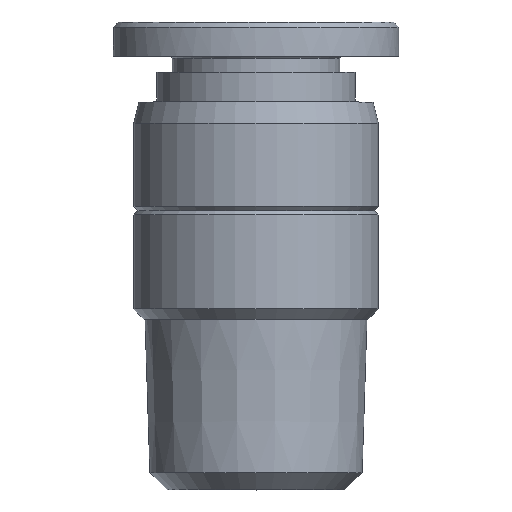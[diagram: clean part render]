
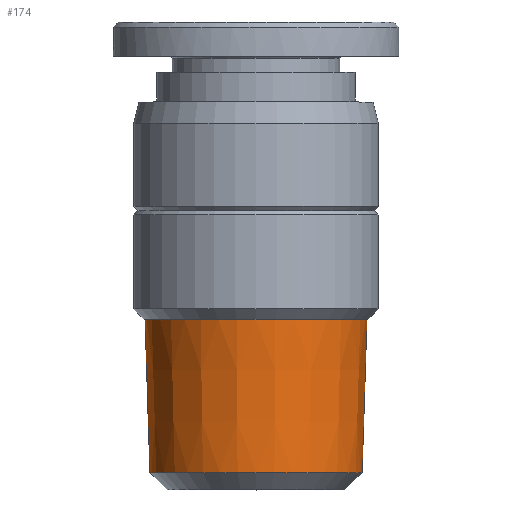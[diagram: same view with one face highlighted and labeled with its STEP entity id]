
A CAD part, top view. The second image highlights one B-rep face of the part: STEP entity #174.
In plain terms, the highlighted conical face has half-angle 1.79 degrees and reference radius 5.082 mm.
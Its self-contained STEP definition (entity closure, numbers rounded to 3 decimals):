
#112=CARTESIAN_POINT('',(4.982,0.8,0.));
#113=VERTEX_POINT('',#112);
#114=CARTESIAN_POINT('',(0.0,0.8,0.));
#115=DIRECTION('',(0.0,-1.0,0.0));
#116=DIRECTION('',(-1.0,0.0,0.0));
#117=AXIS2_PLACEMENT_3D('',#114,#115,#116);
#118=CIRCLE('',#117,4.982);
#119=EDGE_CURVE('',#113,#113,#118,.T.);
#155=CARTESIAN_POINT('',(0.0,4.,0.0));
#156=DIRECTION('',(0.0,1.0,0.0));
#157=DIRECTION('',(1.0,0.0,0.0));
#158=AXIS2_PLACEMENT_3D('',#155,#156,#157);
#159=CONICAL_SURFACE('',#158,5.083,1.79);
#160=CARTESIAN_POINT('',(5.208,8.0,0.0));
#161=VERTEX_POINT('',#160);
#162=CARTESIAN_POINT('',(0.0,8.0,0.0));
#163=DIRECTION('',(0.0,-1.0,0.0));
#164=DIRECTION('',(1.0,0.0,0.0));
#165=AXIS2_PLACEMENT_3D('',#162,#163,#164);
#166=CIRCLE('',#165,5.208);
#167=EDGE_CURVE('',#161,#161,#166,.T.);
#168=ORIENTED_EDGE('',*,*,#167,.T.);
#169=EDGE_LOOP('',(#168));
#170=FACE_OUTER_BOUND('',#169,.T.);
#171=ORIENTED_EDGE('',*,*,#119,.F.);
#172=EDGE_LOOP('',(#171));
#173=FACE_BOUND('',#172,.T.);
#174=ADVANCED_FACE('',(#170,#173),#159,.T.);
